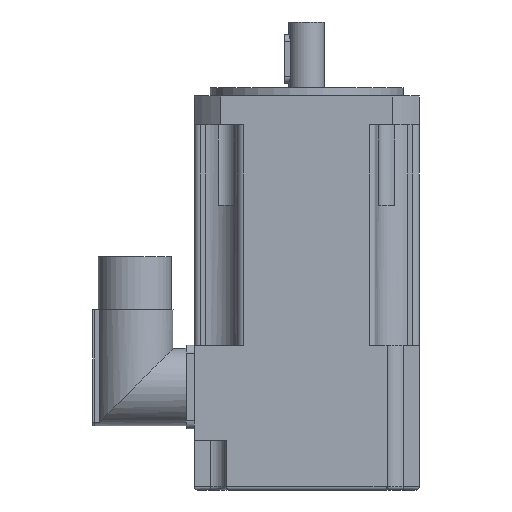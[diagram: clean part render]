
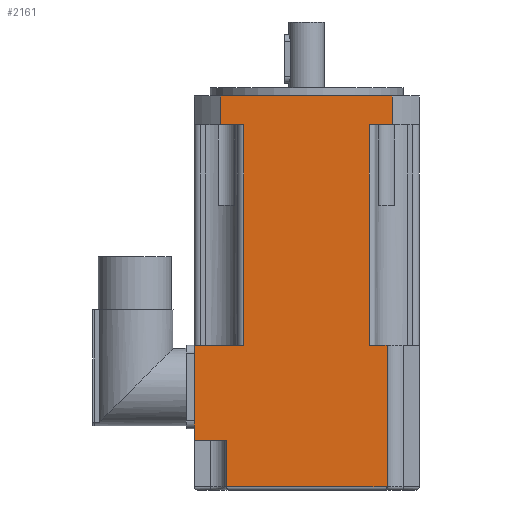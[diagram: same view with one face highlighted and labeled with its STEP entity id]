
A CAD part, left-side view. The second image highlights one B-rep face of the part: STEP entity #2161.
In plain terms, the highlighted planar face has unit normal (-1, 0, 0).
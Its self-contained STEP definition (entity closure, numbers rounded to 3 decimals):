
#313=FACE_OUTER_BOUND('',#451,.T.);
#451=EDGE_LOOP('',(#1851,#1852,#1853,#1854,#1855,#1856,#1857,#1858,#1859,
#1860,#1861,#1862,#1863,#1864));
#514=LINE('',#3260,#702);
#519=LINE('',#3284,#707);
#534=LINE('',#3353,#722);
#535=LINE('',#3356,#723);
#538=LINE('',#3362,#726);
#557=LINE('',#3410,#745);
#558=LINE('',#3415,#746);
#580=LINE('',#3464,#768);
#601=LINE('',#3543,#789);
#620=LINE('',#3595,#808);
#631=LINE('',#3633,#819);
#633=LINE('',#3638,#821);
#643=LINE('',#3660,#831);
#644=LINE('',#3662,#832);
#702=VECTOR('',#2555,7.165);
#707=VECTOR('',#2576,7.165);
#722=VECTOR('',#2645,9.);
#723=VECTOR('',#2648,9.);
#726=VECTOR('',#2655,53.329);
#745=VECTOR('',#2708,68.5);
#746=VECTOR('',#2713,68.5);
#768=VECTOR('',#2757,15.5);
#789=VECTOR('',#2836,50.);
#808=VECTOR('',#2893,29.5);
#819=VECTOR('',#2928,14.5);
#821=VECTOR('',#2936,10.);
#831=VECTOR('',#2962,44.);
#832=VECTOR('',#2965,5.5);
#907=VERTEX_POINT('',#3257);
#908=VERTEX_POINT('',#3259);
#918=VERTEX_POINT('',#3281);
#919=VERTEX_POINT('',#3283);
#946=VERTEX_POINT('',#3351);
#947=VERTEX_POINT('',#3355);
#960=VERTEX_POINT('',#3408);
#961=VERTEX_POINT('',#3412);
#978=VERTEX_POINT('',#3462);
#999=VERTEX_POINT('',#3515);
#1007=VERTEX_POINT('',#3542);
#1021=VERTEX_POINT('',#3593);
#1036=VERTEX_POINT('',#3632);
#1040=VERTEX_POINT('',#3658);
#1128=EDGE_CURVE('',#908,#907,#514,.T.);
#1140=EDGE_CURVE('',#919,#918,#519,.T.);
#1173=EDGE_CURVE('',#918,#946,#534,.T.);
#1174=EDGE_CURVE('',#908,#947,#535,.T.);
#1178=EDGE_CURVE('',#947,#946,#538,.T.);
#1203=EDGE_CURVE('',#960,#919,#557,.T.);
#1205=EDGE_CURVE('',#961,#907,#558,.T.);
#1230=EDGE_CURVE('',#978,#961,#580,.T.);
#1268=EDGE_CURVE('',#1007,#999,#601,.T.);
#1296=EDGE_CURVE('',#978,#1021,#620,.T.);
#1316=EDGE_CURVE('',#1036,#999,#631,.T.);
#1318=EDGE_CURVE('',#1036,#1021,#633,.T.);
#1329=EDGE_CURVE('',#1007,#1040,#643,.T.);
#1330=EDGE_CURVE('',#960,#1040,#644,.T.);
#1851=ORIENTED_EDGE('',*,*,#1268,.F.);
#1852=ORIENTED_EDGE('',*,*,#1329,.T.);
#1853=ORIENTED_EDGE('',*,*,#1330,.F.);
#1854=ORIENTED_EDGE('',*,*,#1203,.T.);
#1855=ORIENTED_EDGE('',*,*,#1140,.T.);
#1856=ORIENTED_EDGE('',*,*,#1173,.T.);
#1857=ORIENTED_EDGE('',*,*,#1178,.F.);
#1858=ORIENTED_EDGE('',*,*,#1174,.F.);
#1859=ORIENTED_EDGE('',*,*,#1128,.T.);
#1860=ORIENTED_EDGE('',*,*,#1205,.F.);
#1861=ORIENTED_EDGE('',*,*,#1230,.F.);
#1862=ORIENTED_EDGE('',*,*,#1296,.T.);
#1863=ORIENTED_EDGE('',*,*,#1318,.F.);
#1864=ORIENTED_EDGE('',*,*,#1316,.T.);
#2054=PLANE('',#2382);
#2161=ADVANCED_FACE('',(#313),#2054,.T.);
#2382=AXIS2_PLACEMENT_3D('',#3661,#2963,#2964);
#2555=DIRECTION('',(0.,-1.,0.));
#2576=DIRECTION('',(0.,-1.,0.));
#2645=DIRECTION('',(0.,0.,1.));
#2648=DIRECTION('',(0.,0.,1.));
#2655=DIRECTION('',(0.,-1.,0.));
#2708=DIRECTION('',(0.,0.,1.));
#2713=DIRECTION('',(0.,0.,1.));
#2757=DIRECTION('',(0.,-1.,0.));
#2836=DIRECTION('',(0.,1.,0.));
#2893=DIRECTION('',(0.,0.,-1.));
#2928=DIRECTION('',(0.,0.,-1.));
#2936=DIRECTION('',(0.,1.,0.));
#2962=DIRECTION('',(0.,0.,1.));
#2963=DIRECTION('center_axis',(-1.,0.,0.));
#2964=DIRECTION('ref_axis',(0.,-1.,0.));
#2965=DIRECTION('',(0.,-1.,0.));
#3257=CARTESIAN_POINT('',(-35.,19.5,81.5));
#3259=CARTESIAN_POINT('',(-35.,26.665,81.5));
#3260=CARTESIAN_POINT('',(-35.,26.665,81.5));
#3281=CARTESIAN_POINT('',(-35.,-26.665,81.5));
#3283=CARTESIAN_POINT('',(-35.,-19.5,81.5));
#3284=CARTESIAN_POINT('',(-35.,26.665,81.5));
#3351=CARTESIAN_POINT('',(-35.,-26.665,90.5));
#3353=CARTESIAN_POINT('',(-35.,-26.665,81.5));
#3355=CARTESIAN_POINT('',(-35.,26.665,90.5));
#3356=CARTESIAN_POINT('',(-35.,26.665,81.5));
#3362=CARTESIAN_POINT('',(-35.,26.665,90.5));
#3408=CARTESIAN_POINT('',(-35.,-19.5,13.));
#3410=CARTESIAN_POINT('',(-35.,-19.5,13.));
#3412=CARTESIAN_POINT('',(-35.,19.5,13.));
#3415=CARTESIAN_POINT('',(-35.,19.5,13.));
#3462=CARTESIAN_POINT('',(-35.,35.,13.));
#3464=CARTESIAN_POINT('',(-35.,35.,13.));
#3515=CARTESIAN_POINT('',(-35.,25.,-31.));
#3542=CARTESIAN_POINT('',(-35.,-25.,-31.));
#3543=CARTESIAN_POINT('',(-35.,17.5,-31.));
#3593=CARTESIAN_POINT('',(-35.,35.,-16.5));
#3595=CARTESIAN_POINT('',(-35.,35.,0.));
#3632=CARTESIAN_POINT('',(-35.,25.,-16.5));
#3633=CARTESIAN_POINT('',(-35.,25.,-16.5));
#3638=CARTESIAN_POINT('',(-35.,35.,-16.5));
#3658=CARTESIAN_POINT('',(-35.,-25.,13.));
#3660=CARTESIAN_POINT('',(-35.,-25.,0.));
#3661=CARTESIAN_POINT('Origin',(-35.,35.,0.));
#3662=CARTESIAN_POINT('',(-35.,35.,13.));
